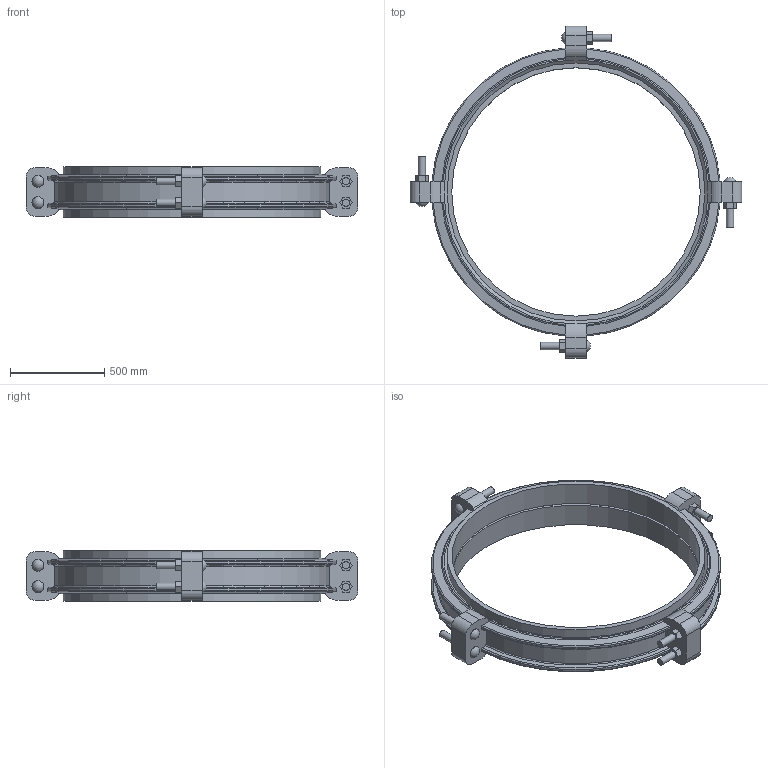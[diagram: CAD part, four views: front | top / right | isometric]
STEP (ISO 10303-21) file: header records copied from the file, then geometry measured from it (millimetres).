
FILE_DESCRIPTION(/* description */ ('VIC COUPLING FLEX STYLE W77 AGS VIC-RING ','CAx-IF Rec.Pracs.---Representation and Presentation of Product Manufacturing Information (PMI)---4.0---2014-10-13'),/* implementation_level */ '2;1');
FILE_NAME(/* name */ 'C:\Users\Vjadhav\AppData\Roaming\Autodesk\ApplicationPlugins\Victaulic.Temp\A52\Victaulic_Vic-Ring_Coupling Flexible_Style W77 (AGR)_54 (1350).stp',/* time_stamp */ '2021-12-20T11:06:39+06:00',/* author */ ('Vjadhav'),/* organization */ ('Victaulic'),/* preprocessor_version */ 'ST-DEVELOPER v17.2',/* originating_system */ 'Autodesk Inventor 2019',/* authorisation */ '');
FILE_SCHEMA (('AP242_MANAGED_MODEL_BASED_3D_ENGINEERING_MIM_LF { 1 0 10303 442 1 1 4 }'));
Length unit declared in the file: inch
Products named in the file (3): W77 VR-54.0; W77-VR-54.0; W77 VR-54.0_1
Assembly tree (3 placements, depth 2):
  W77 VR-54.0
    W77-VR-54.0
    W77 VR-54.0_1  x2
Bounding box: 1765.3 x 1765.3 x 265.94 mm (x, y, z)
Volume: 91311601 mm3; surface area: 6022365.2 mm2
Topology: 3 solids, 11 shells, 279 faces, 745 edges, 512 vertices
Faces by surface type: plane 138, cylinder 83, torus 32, cone 18, sphere 8
Full cylindrical faces by diameter (mm): 38.1 x16, 63.5 x8, 1320.8 x2, 1352.55 x1, 1371.6 x4
Entity records: 10061 total; most frequent: CARTESIAN_POINT 2672, ORIENTED_EDGE 1470, DIRECTION 1457, EDGE_CURVE 735, AXIS2_PLACEMENT_3D 537, VERTEX_POINT 504, LINE 383, VECTOR 383
